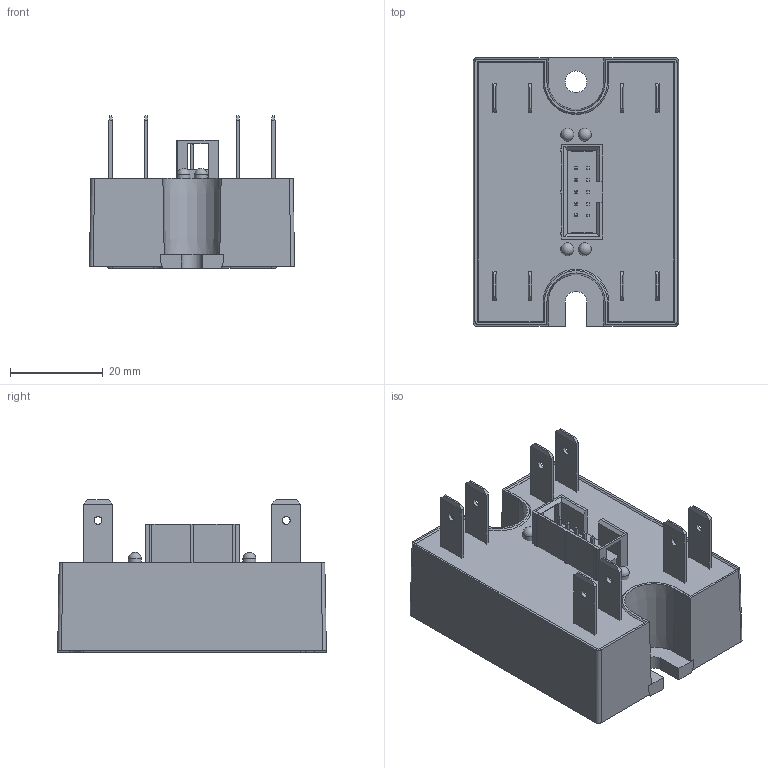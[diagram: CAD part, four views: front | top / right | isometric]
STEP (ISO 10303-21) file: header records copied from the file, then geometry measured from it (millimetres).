
FILE_DESCRIPTION(/* description */ (''),/* implementation_level */ '2;1');
FILE_NAME(/* name */ 'C:\Vault_local\Designs\Stock\3D pour clients\2D3D 600\2D3D 688 A.stp',/* time_stamp */ '2023-10-06T09:32:18+02:00',/* author */ ('ysicot'),/* organization */ (''),/* preprocessor_version */ 'ST-DEVELOPER v17',/* originating_system */ 'Autodesk Inventor 2018',/* authorisation */ '');
FILE_SCHEMA (('CONFIG_CONTROL_DESIGN'));
Length unit declared in the file: millimetre
Products named in the file (1): SCQ842160
Bounding box: 44.3 x 58.06 x 33 mm (x, y, z)
Volume: 47443.3 mm3; surface area: 28229.9 mm2
Topology: 21 solids, 21 shells, 707 faces, 1844 edges, 1188 vertices
Faces by surface type: plane 601, cylinder 66, cone 36, sphere 4
Full cylindrical faces by diameter (mm): 1 x6, 1.7 x8, 2.8 x4, 3.2 x4, 4.7 x1
Entity records: 21766 total; most frequent: CARTESIAN_POINT 3732, ORIENTED_EDGE 3672, DIRECTION 3490, EDGE_CURVE 1836, LINE 1598, VECTOR 1598, VERTEX_POINT 1188, AXIS2_PLACEMENT_3D 946
